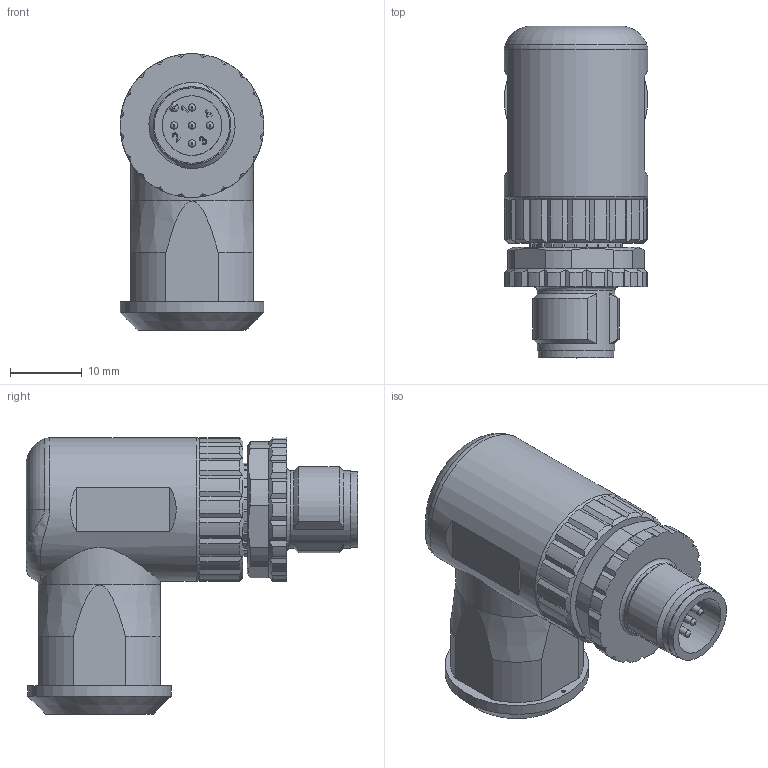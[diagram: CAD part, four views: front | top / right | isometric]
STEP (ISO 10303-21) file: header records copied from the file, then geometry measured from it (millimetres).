
FILE_DESCRIPTION(/* description */ (''),/* implementation_level */ '2;1');
FILE_NAME(/* name */ 'K:\Step\43\43K1A4054_5pol.stp',/* time_stamp */ '2018-01-10T15:00:34+01:00',/* author */ ('RuthChristen'),/* organization */ (''),/* preprocessor_version */ 'ST-DEVELOPER v16.13',/* originating_system */ 'Autodesk Inventor 2018',/* authorisation */ '');
FILE_SCHEMA (('AUTOMOTIVE_DESIGN { 1 0 10303 214 3 1 1 }'));
Length unit declared in the file: millimetre
Products named in the file (1): Bauteil8
Bounding box: 20 x 46.2 x 38.5 mm (x, y, z)
Volume: 16302.6 mm3; surface area: 5136.7 mm2
Topology: 1 solids, 1 shells, 400 faces, 1093 edges, 722 vertices
Faces by surface type: plane 247, cylinder 93, bspline 42, cone 12, torus 6
Full cylindrical faces by diameter (mm): 0.5 x1, 1.01 x5, 8.3 x1, 10.5 x1, 10.8 x1, 17 x1, 20 x2
Entity records: 13481 total; most frequent: CARTESIAN_POINT 3385, ORIENTED_EDGE 2128, DIRECTION 1829, EDGE_CURVE 1064, VERTEX_POINT 713, LINE 649, VECTOR 649, AXIS2_PLACEMENT_3D 590
